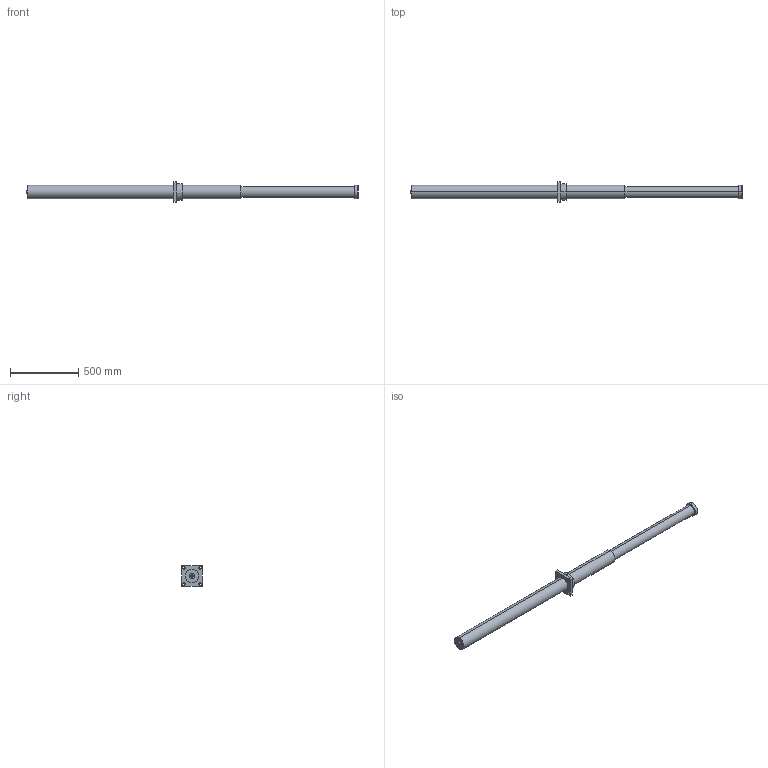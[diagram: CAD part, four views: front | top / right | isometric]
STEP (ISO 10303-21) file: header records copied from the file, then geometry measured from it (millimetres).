
FILE_DESCRIPTION (( 'STEP AP214' ), '1' );
FILE_NAME ('LDH100X800FF.STEP', '2019-01-21T04:56:53', ( 'user' ), ( 'Microsoft' ), 'SwSTEP 2.0', 'SolidWorks 2016', '' );
FILE_SCHEMA (( 'AUTOMOTIVE_DESIGN' ));
Length unit declared in the file: millimetre
Products named in the file (1): LDH100X800FF
Bounding box: 2426 x 150 x 150 mm (x, y, z)
Volume: 17035688.1 mm3; surface area: 770864.3 mm2
Topology: 1 solids, 5 shells, 65 faces, 140 edges, 92 vertices
Faces by surface type: cylinder 30, plane 29, cone 6
Entity records: 1840 total; most frequent: DIRECTION 348, CARTESIAN_POINT 298, ORIENTED_EDGE 280, AXIS2_PLACEMENT_3D 142, EDGE_CURVE 140, VERTEX_POINT 92, EDGE_LOOP 80, CIRCLE 76
